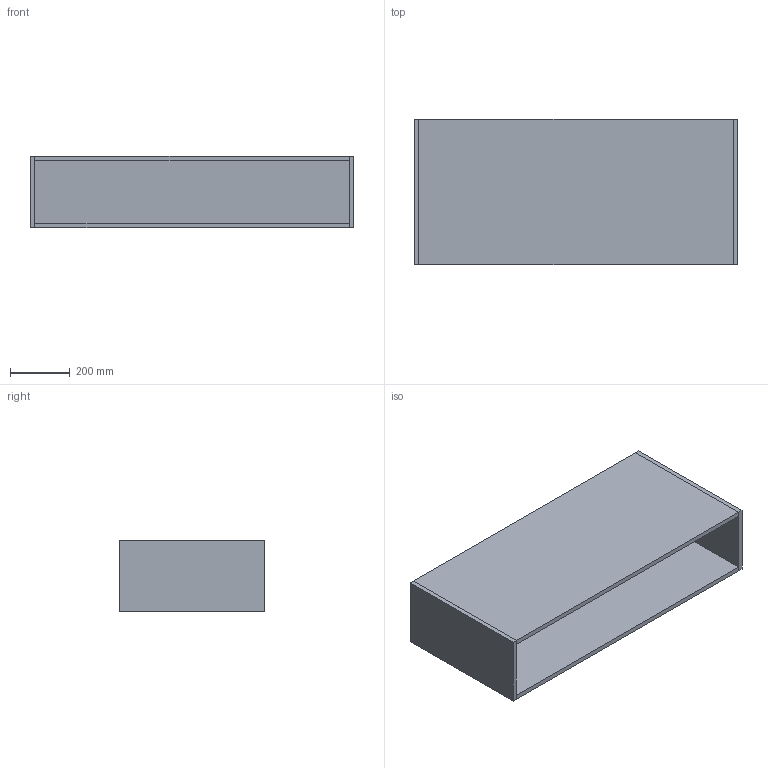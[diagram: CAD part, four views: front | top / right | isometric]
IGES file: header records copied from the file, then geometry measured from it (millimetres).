
Start section: Data from Parasolid IGES Translator 19.0.9, Copyright(c) 2006 Siemens PL M Software. All Rights Reserved.
Global section: file name: noorth-SI-H 24 D 51 W 108_8327.igs; native system: By Siemens PLM Incorporated; preprocessor: XPlus GENERIC/IGES 19.0.9; author: Noname; organization: Noname; date: 20200530.121831; units: metre
Bounding box: 1080.01 x 486.06 x 240 mm (x, y, z)
Volume: 20654671.3 mm3; surface area: 3091730.2 mm2
Topology: 5 solids, 5 shells, 30 faces, 60 edges, 40 vertices
Faces by surface type: plane 30
